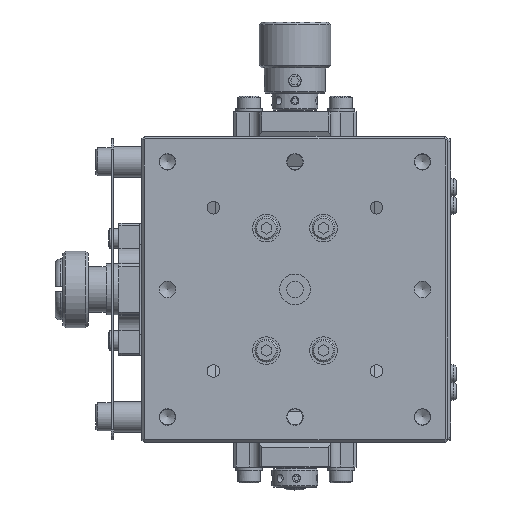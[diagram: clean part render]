
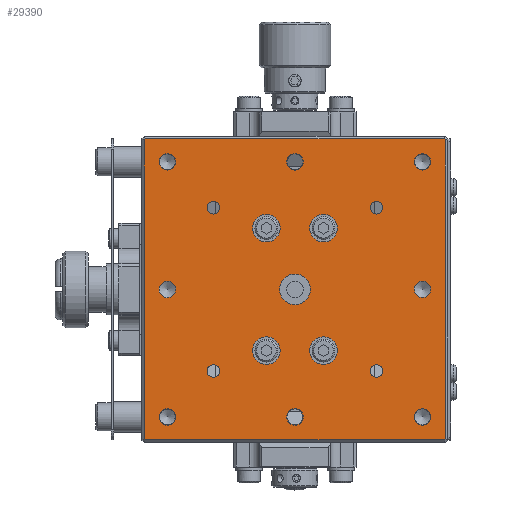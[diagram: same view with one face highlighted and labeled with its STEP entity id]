
A CAD part, top view. The second image highlights one B-rep face of the part: STEP entity #29390.
In plain terms, the highlighted planar face has unit normal (0, 0, 1).
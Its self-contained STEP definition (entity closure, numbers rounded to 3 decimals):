
#27907=CARTESIAN_POINT('',(3.,0.0,-35.0));
#27908=VERTEX_POINT('',#27907);
#27909=CARTESIAN_POINT('',(0.0,0.0,-35.0));
#27910=DIRECTION('',(0.0,0.0,-1.0));
#27911=DIRECTION('',(1.0,0.0,0.0));
#27912=AXIS2_PLACEMENT_3D('',#27909,#27910,#27911);
#27913=CIRCLE('',#27912,3.);
#27914=EDGE_CURVE('',#27908,#27908,#27913,.T.);
#28193=CARTESIAN_POINT('',(1.621,-25.0,-35.0));
#28194=VERTEX_POINT('',#28193);
#28195=CARTESIAN_POINT('',(0.0,-25.0,-35.0));
#28196=DIRECTION('',(0.0,0.0,-1.0));
#28197=DIRECTION('',(1.0,0.0,0.0));
#28198=AXIS2_PLACEMENT_3D('',#28195,#28196,#28197);
#28199=CIRCLE('',#28198,1.621);
#28200=EDGE_CURVE('',#28194,#28194,#28199,.T.);
#28235=CARTESIAN_POINT('',(1.621,25.0,-35.0));
#28236=VERTEX_POINT('',#28235);
#28237=CARTESIAN_POINT('',(0.0,25.0,-35.0));
#28238=DIRECTION('',(0.0,0.0,-1.0));
#28239=DIRECTION('',(1.0,0.0,0.0));
#28240=AXIS2_PLACEMENT_3D('',#28237,#28238,#28239);
#28241=CIRCLE('',#28240,1.621);
#28242=EDGE_CURVE('',#28236,#28236,#28241,.T.);
#28273=CARTESIAN_POINT('',(-23.379,0.0,-35.0));
#28274=VERTEX_POINT('',#28273);
#28275=CARTESIAN_POINT('',(-25.0,0.0,-35.0));
#28276=DIRECTION('',(0.0,0.0,-1.0));
#28277=DIRECTION('',(1.0,0.0,0.0));
#28278=AXIS2_PLACEMENT_3D('',#28275,#28276,#28277);
#28279=CIRCLE('',#28278,1.621);
#28280=EDGE_CURVE('',#28274,#28274,#28279,.T.);
#28352=CARTESIAN_POINT('',(26.621,0.0,-35.0));
#28353=VERTEX_POINT('',#28352);
#28354=CARTESIAN_POINT('',(25.0,0.0,-35.0));
#28355=DIRECTION('',(0.0,0.0,-1.0));
#28356=DIRECTION('',(1.0,0.0,0.0));
#28357=AXIS2_PLACEMENT_3D('',#28354,#28355,#28356);
#28358=CIRCLE('',#28357,1.621);
#28359=EDGE_CURVE('',#28353,#28353,#28358,.T.);
#28431=CARTESIAN_POINT('',(26.621,25.0,-35.0));
#28432=VERTEX_POINT('',#28431);
#28433=CARTESIAN_POINT('',(25.0,25.0,-35.0));
#28434=DIRECTION('',(0.0,0.0,-1.0));
#28435=DIRECTION('',(1.0,0.0,0.0));
#28436=AXIS2_PLACEMENT_3D('',#28433,#28434,#28435);
#28437=CIRCLE('',#28436,1.621);
#28438=EDGE_CURVE('',#28432,#28432,#28437,.T.);
#28513=CARTESIAN_POINT('',(-25.0,26.621,-35.0));
#28514=VERTEX_POINT('',#28513);
#28515=CARTESIAN_POINT('',(-25.0,25.0,-35.0));
#28516=DIRECTION('',(0.0,0.0,-1.0));
#28517=DIRECTION('',(0.0,1.0,0.0));
#28518=AXIS2_PLACEMENT_3D('',#28515,#28516,#28517);
#28519=CIRCLE('',#28518,1.621);
#28520=EDGE_CURVE('',#28514,#28514,#28519,.T.);
#28595=CARTESIAN_POINT('',(-26.621,-25.0,-35.0));
#28596=VERTEX_POINT('',#28595);
#28597=CARTESIAN_POINT('',(-25.0,-25.0,-35.0));
#28598=DIRECTION('',(0.0,0.0,-1.0));
#28599=DIRECTION('',(-1.0,0.0,0.0));
#28600=AXIS2_PLACEMENT_3D('',#28597,#28598,#28599);
#28601=CIRCLE('',#28600,1.621);
#28602=EDGE_CURVE('',#28596,#28596,#28601,.T.);
#28677=CARTESIAN_POINT('',(25.,-26.621,-35.0));
#28678=VERTEX_POINT('',#28677);
#28679=CARTESIAN_POINT('',(25.,-25.,-35.0));
#28680=DIRECTION('',(0.0,0.0,-1.0));
#28681=DIRECTION('',(0.0,-1.0,0.0));
#28682=AXIS2_PLACEMENT_3D('',#28679,#28680,#28681);
#28683=CIRCLE('',#28682,1.621);
#28684=EDGE_CURVE('',#28678,#28678,#28683,.T.);
#28759=CARTESIAN_POINT('',(8.3,12.,-35.0));
#28760=VERTEX_POINT('',#28759);
#28761=CARTESIAN_POINT('',(5.6,12.,-35.0));
#28762=DIRECTION('',(0.0,0.0,-1.0));
#28763=DIRECTION('',(1.0,0.0,0.0));
#28764=AXIS2_PLACEMENT_3D('',#28761,#28762,#28763);
#28765=CIRCLE('',#28764,2.7);
#28766=EDGE_CURVE('',#28760,#28760,#28765,.T.);
#28828=CARTESIAN_POINT('',(-2.9,12.,-35.0));
#28829=VERTEX_POINT('',#28828);
#28830=CARTESIAN_POINT('',(-5.6,12.,-35.0));
#28831=DIRECTION('',(0.0,0.0,-1.0));
#28832=DIRECTION('',(1.0,0.0,0.0));
#28833=AXIS2_PLACEMENT_3D('',#28830,#28831,#28832);
#28834=CIRCLE('',#28833,2.7);
#28835=EDGE_CURVE('',#28829,#28829,#28834,.T.);
#28909=CARTESIAN_POINT('',(-8.3,-12.,-35.0));
#28910=VERTEX_POINT('',#28909);
#28911=CARTESIAN_POINT('',(-5.6,-12.,-35.0));
#28912=DIRECTION('',(0.0,0.0,-1.0));
#28913=DIRECTION('',(-1.0,0.0,0.0));
#28914=AXIS2_PLACEMENT_3D('',#28911,#28912,#28913);
#28915=CIRCLE('',#28914,2.7);
#28916=EDGE_CURVE('',#28910,#28910,#28915,.T.);
#28950=CARTESIAN_POINT('',(2.9,-12.,-35.0));
#28951=VERTEX_POINT('',#28950);
#28952=CARTESIAN_POINT('',(5.6,-12.,-35.0));
#28953=DIRECTION('',(0.0,0.0,-1.0));
#28954=DIRECTION('',(-1.0,0.0,0.0));
#28955=AXIS2_PLACEMENT_3D('',#28952,#28953,#28954);
#28956=CIRCLE('',#28955,2.7);
#28957=EDGE_CURVE('',#28951,#28951,#28956,.T.);
#29022=CARTESIAN_POINT('',(-14.771,-16.,-35.0));
#29023=VERTEX_POINT('',#29022);
#29024=CARTESIAN_POINT('',(-16.0,-16.,-35.0));
#29025=DIRECTION('',(0.0,0.0,-1.0));
#29026=DIRECTION('',(1.0,0.0,0.0));
#29027=AXIS2_PLACEMENT_3D('',#29024,#29025,#29026);
#29028=CIRCLE('',#29027,1.23);
#29029=EDGE_CURVE('',#29023,#29023,#29028,.T.);
#29063=CARTESIAN_POINT('',(16.,-14.771,-35.0));
#29064=VERTEX_POINT('',#29063);
#29065=CARTESIAN_POINT('',(16.,-16.0,-35.0));
#29066=DIRECTION('',(0.0,0.0,-1.0));
#29067=DIRECTION('',(0.0,1.0,0.0));
#29068=AXIS2_PLACEMENT_3D('',#29065,#29066,#29067);
#29069=CIRCLE('',#29068,1.23);
#29070=EDGE_CURVE('',#29064,#29064,#29069,.T.);
#29104=CARTESIAN_POINT('',(14.771,16.,-35.0));
#29105=VERTEX_POINT('',#29104);
#29106=CARTESIAN_POINT('',(16.0,16.,-35.0));
#29107=DIRECTION('',(0.0,0.0,-1.0));
#29108=DIRECTION('',(-1.0,0.0,0.0));
#29109=AXIS2_PLACEMENT_3D('',#29106,#29107,#29108);
#29110=CIRCLE('',#29109,1.23);
#29111=EDGE_CURVE('',#29105,#29105,#29110,.T.);
#29145=CARTESIAN_POINT('',(-16.,14.771,-35.0));
#29146=VERTEX_POINT('',#29145);
#29147=CARTESIAN_POINT('',(-16.,16.,-35.0));
#29148=DIRECTION('',(0.0,0.0,-1.0));
#29149=DIRECTION('',(0.0,-1.0,0.0));
#29150=AXIS2_PLACEMENT_3D('',#29147,#29148,#29149);
#29151=CIRCLE('',#29150,1.23);
#29152=EDGE_CURVE('',#29146,#29146,#29151,.T.);
#29268=CARTESIAN_POINT('',(0.0,30.0,-35.0));
#29269=DIRECTION('',(0.0,0.0,1.0));
#29270=DIRECTION('',(1.0,0.0,0.0));
#29271=AXIS2_PLACEMENT_3D('',#29268,#29269,#29270);
#29272=PLANE('',#29271);
#29273=CARTESIAN_POINT('',(29.293,29.5,-35.0));
#29274=VERTEX_POINT('',#29273);
#29275=CARTESIAN_POINT('',(29.5,29.293,-35.0));
#29276=VERTEX_POINT('',#29275);
#29277=CARTESIAN_POINT('',(29.293,29.5,-35.0));
#29278=DIRECTION('',(0.707,-0.707,0.0));
#29279=VECTOR('',#29278,0.293);
#29280=LINE('',#29277,#29279);
#29281=EDGE_CURVE('',#29274,#29276,#29280,.T.);
#29282=ORIENTED_EDGE('',*,*,#29281,.F.);
#29283=CARTESIAN_POINT('',(-29.293,29.5,-35.0));
#29284=VERTEX_POINT('',#29283);
#29285=CARTESIAN_POINT('',(-29.293,29.5,-35.0));
#29286=DIRECTION('',(1.0,0.0,0.0));
#29287=VECTOR('',#29286,58.586);
#29288=LINE('',#29285,#29287);
#29289=EDGE_CURVE('',#29284,#29274,#29288,.T.);
#29290=ORIENTED_EDGE('',*,*,#29289,.F.);
#29291=CARTESIAN_POINT('',(-29.5,29.293,-35.0));
#29292=VERTEX_POINT('',#29291);
#29293=CARTESIAN_POINT('',(-29.5,29.293,-35.0));
#29294=DIRECTION('',(0.707,0.707,0.0));
#29295=VECTOR('',#29294,0.293);
#29296=LINE('',#29293,#29295);
#29297=EDGE_CURVE('',#29292,#29284,#29296,.T.);
#29298=ORIENTED_EDGE('',*,*,#29297,.F.);
#29299=CARTESIAN_POINT('',(-29.5,-29.293,-35.0));
#29300=VERTEX_POINT('',#29299);
#29301=CARTESIAN_POINT('',(-29.5,-29.293,-35.0));
#29302=DIRECTION('',(0.0,1.0,0.0));
#29303=VECTOR('',#29302,58.586);
#29304=LINE('',#29301,#29303);
#29305=EDGE_CURVE('',#29300,#29292,#29304,.T.);
#29306=ORIENTED_EDGE('',*,*,#29305,.F.);
#29307=CARTESIAN_POINT('',(-29.293,-29.5,-35.0));
#29308=VERTEX_POINT('',#29307);
#29309=CARTESIAN_POINT('',(-29.293,-29.5,-35.0));
#29310=DIRECTION('',(-0.707,0.707,0.0));
#29311=VECTOR('',#29310,0.293);
#29312=LINE('',#29309,#29311);
#29313=EDGE_CURVE('',#29308,#29300,#29312,.T.);
#29314=ORIENTED_EDGE('',*,*,#29313,.F.);
#29315=CARTESIAN_POINT('',(29.293,-29.5,-35.0));
#29316=VERTEX_POINT('',#29315);
#29317=CARTESIAN_POINT('',(29.293,-29.5,-35.0));
#29318=DIRECTION('',(-1.0,0.0,0.0));
#29319=VECTOR('',#29318,58.586);
#29320=LINE('',#29317,#29319);
#29321=EDGE_CURVE('',#29316,#29308,#29320,.T.);
#29322=ORIENTED_EDGE('',*,*,#29321,.F.);
#29323=CARTESIAN_POINT('',(29.5,-29.293,-35.0));
#29324=VERTEX_POINT('',#29323);
#29325=CARTESIAN_POINT('',(29.5,-29.293,-35.0));
#29326=DIRECTION('',(-0.707,-0.707,0.0));
#29327=VECTOR('',#29326,0.293);
#29328=LINE('',#29325,#29327);
#29329=EDGE_CURVE('',#29324,#29316,#29328,.T.);
#29330=ORIENTED_EDGE('',*,*,#29329,.F.);
#29331=CARTESIAN_POINT('',(29.5,29.293,-35.0));
#29332=DIRECTION('',(0.0,-1.0,0.0));
#29333=VECTOR('',#29332,58.586);
#29334=LINE('',#29331,#29333);
#29335=EDGE_CURVE('',#29276,#29324,#29334,.T.);
#29336=ORIENTED_EDGE('',*,*,#29335,.F.);
#29337=EDGE_LOOP('',(#29282,#29290,#29298,#29306,#29314,#29322,#29330,#29336));
#29338=FACE_OUTER_BOUND('',#29337,.T.);
#29339=ORIENTED_EDGE('',*,*,#29152,.T.);
#29340=EDGE_LOOP('',(#29339));
#29341=FACE_BOUND('',#29340,.T.);
#29342=ORIENTED_EDGE('',*,*,#29111,.T.);
#29343=EDGE_LOOP('',(#29342));
#29344=FACE_BOUND('',#29343,.T.);
#29345=ORIENTED_EDGE('',*,*,#29070,.T.);
#29346=EDGE_LOOP('',(#29345));
#29347=FACE_BOUND('',#29346,.T.);
#29348=ORIENTED_EDGE('',*,*,#29029,.T.);
#29349=EDGE_LOOP('',(#29348));
#29350=FACE_BOUND('',#29349,.T.);
#29351=ORIENTED_EDGE('',*,*,#28957,.T.);
#29352=EDGE_LOOP('',(#29351));
#29353=FACE_BOUND('',#29352,.T.);
#29354=ORIENTED_EDGE('',*,*,#28916,.T.);
#29355=EDGE_LOOP('',(#29354));
#29356=FACE_BOUND('',#29355,.T.);
#29357=ORIENTED_EDGE('',*,*,#28835,.T.);
#29358=EDGE_LOOP('',(#29357));
#29359=FACE_BOUND('',#29358,.T.);
#29360=ORIENTED_EDGE('',*,*,#28766,.T.);
#29361=EDGE_LOOP('',(#29360));
#29362=FACE_BOUND('',#29361,.T.);
#29363=ORIENTED_EDGE('',*,*,#28684,.T.);
#29364=EDGE_LOOP('',(#29363));
#29365=FACE_BOUND('',#29364,.T.);
#29366=ORIENTED_EDGE('',*,*,#28602,.T.);
#29367=EDGE_LOOP('',(#29366));
#29368=FACE_BOUND('',#29367,.T.);
#29369=ORIENTED_EDGE('',*,*,#28520,.T.);
#29370=EDGE_LOOP('',(#29369));
#29371=FACE_BOUND('',#29370,.T.);
#29372=ORIENTED_EDGE('',*,*,#28438,.T.);
#29373=EDGE_LOOP('',(#29372));
#29374=FACE_BOUND('',#29373,.T.);
#29375=ORIENTED_EDGE('',*,*,#28359,.T.);
#29376=EDGE_LOOP('',(#29375));
#29377=FACE_BOUND('',#29376,.T.);
#29378=ORIENTED_EDGE('',*,*,#28280,.T.);
#29379=EDGE_LOOP('',(#29378));
#29380=FACE_BOUND('',#29379,.T.);
#29381=ORIENTED_EDGE('',*,*,#28242,.T.);
#29382=EDGE_LOOP('',(#29381));
#29383=FACE_BOUND('',#29382,.T.);
#29384=ORIENTED_EDGE('',*,*,#28200,.T.);
#29385=EDGE_LOOP('',(#29384));
#29386=FACE_BOUND('',#29385,.T.);
#29387=ORIENTED_EDGE('',*,*,#27914,.T.);
#29388=EDGE_LOOP('',(#29387));
#29389=FACE_BOUND('',#29388,.T.);
#29390=ADVANCED_FACE('',(#29338,#29341,#29344,#29347,#29350,#29353,#29356,#29359,#29362,#29365,#29368,#29371,#29374,#29377,#29380,#29383,#29386,#29389),#29272,.T.);
